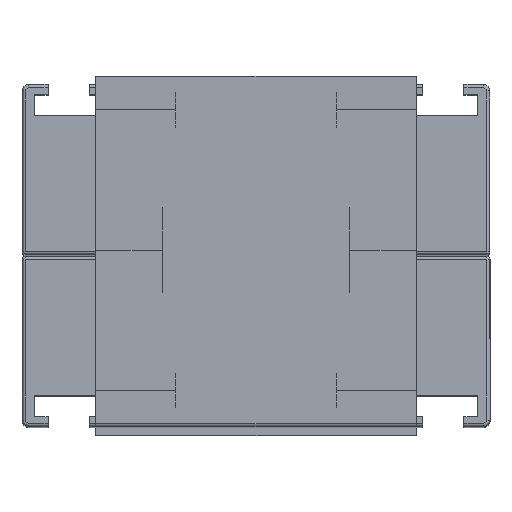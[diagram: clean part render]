
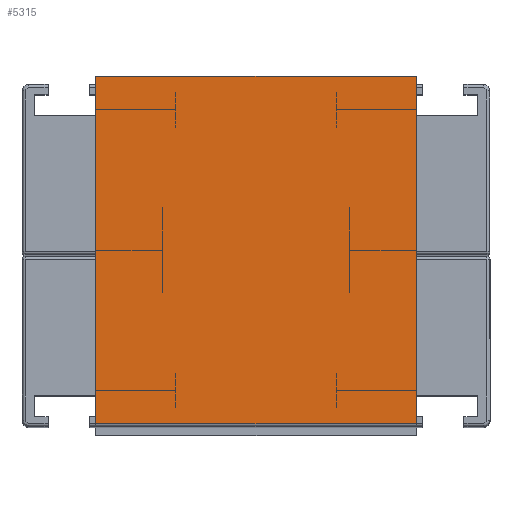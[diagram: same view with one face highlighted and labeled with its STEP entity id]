
A CAD part, top view. The second image highlights one B-rep face of the part: STEP entity #5315.
In plain terms, the highlighted planar face has unit normal (0, 0, 1).
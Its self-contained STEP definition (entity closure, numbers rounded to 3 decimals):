
#65 = VERTEX_POINT ( 'NONE', #3800 ) ;
#1338 = VECTOR ( 'NONE', #6964, 1000. ) ;
#2347 = VECTOR ( 'NONE', #5483, 1000. ) ;
#2564 = CARTESIAN_POINT ( 'NONE',  ( 0., 0., 27.5 ) ) ;
#2582 = CARTESIAN_POINT ( 'NONE',  ( 0., 0., 27.5 ) ) ;
#2786 = EDGE_CURVE ( 'NONE', #65, #8566, #9038, .T. ) ;
#2904 = FACE_OUTER_BOUND ( 'NONE', #7081, .T. ) ;
#3800 = CARTESIAN_POINT ( 'NONE',  ( 0., 52., 27.5 ) ) ;
#3849 = CARTESIAN_POINT ( 'NONE',  ( 48., 0., 27.5 ) ) ;
#3923 = AXIS2_PLACEMENT_3D ( 'NONE', #3849, #8347, #4130 ) ;
#3973 = VECTOR ( 'NONE', #7010, 1000. ) ;
#3994 = CARTESIAN_POINT ( 'NONE',  ( 48., 0., 27.5 ) ) ;
#4130 = DIRECTION ( 'NONE',  ( -1., 0., 0. ) ) ;
#4648 = LINE ( 'NONE', #7296, #1338 ) ;
#4934 = CARTESIAN_POINT ( 'NONE',  ( 48., 52., 27.5 ) ) ;
#5130 = VECTOR ( 'NONE', #10328, 1000. ) ;
#5315 = ADVANCED_FACE ( 'NONE', ( #2904 ), #7628, .F. ) ;
#5483 = DIRECTION ( 'NONE',  ( 0., -1., 0. ) ) ;
#5650 = LINE ( 'NONE', #5766, #5130 ) ;
#5691 = EDGE_CURVE ( 'NONE', #7036, #65, #5650, .T. ) ;
#5766 = CARTESIAN_POINT ( 'NONE',  ( 48., 52., 27.5 ) ) ;
#5876 = EDGE_CURVE ( 'NONE', #8371, #8566, #9787, .T. ) ;
#6297 = ORIENTED_EDGE ( 'NONE', *, *, #5876, .F. ) ;
#6912 = EDGE_CURVE ( 'NONE', #7036, #8371, #4648, .T. ) ;
#6964 = DIRECTION ( 'NONE',  ( 0., -1., 0. ) ) ;
#7010 = DIRECTION ( 'NONE',  ( -1., 0., 0. ) ) ;
#7036 = VERTEX_POINT ( 'NONE', #4934 ) ;
#7081 = EDGE_LOOP ( 'NONE', ( #7205, #6297, #11192, #11541 ) ) ;
#7205 = ORIENTED_EDGE ( 'NONE', *, *, #2786, .T. ) ;
#7296 = CARTESIAN_POINT ( 'NONE',  ( 48., 0., 27.5 ) ) ;
#7628 = PLANE ( 'NONE',  #3923 ) ;
#8347 = DIRECTION ( 'NONE',  ( 0., 0., -1. ) ) ;
#8371 = VERTEX_POINT ( 'NONE', #3994 ) ;
#8566 = VERTEX_POINT ( 'NONE', #2564 ) ;
#9038 = LINE ( 'NONE', #2582, #2347 ) ;
#9787 = LINE ( 'NONE', #10445, #3973 ) ;
#10328 = DIRECTION ( 'NONE',  ( -1., 0., 0. ) ) ;
#10445 = CARTESIAN_POINT ( 'NONE',  ( 48., 0., 27.5 ) ) ;
#11192 = ORIENTED_EDGE ( 'NONE', *, *, #6912, .F. ) ;
#11541 = ORIENTED_EDGE ( 'NONE', *, *, #5691, .T. ) ;
